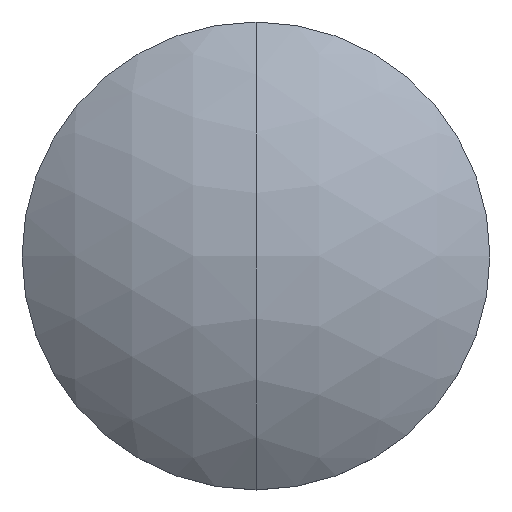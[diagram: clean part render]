
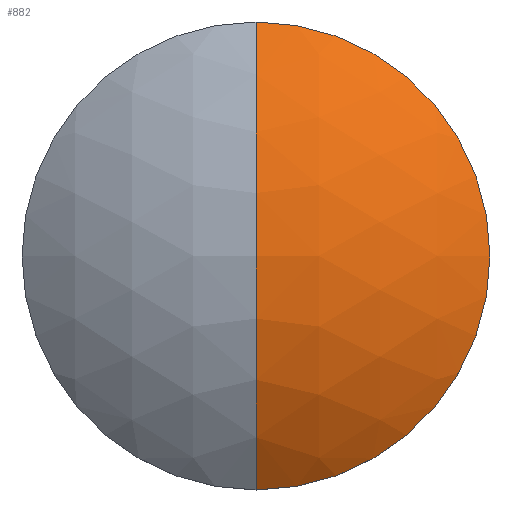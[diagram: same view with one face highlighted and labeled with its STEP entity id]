
A CAD part, top view. The second image highlights one B-rep face of the part: STEP entity #882.
In plain terms, the highlighted spherical face has radius 13.328 mm.
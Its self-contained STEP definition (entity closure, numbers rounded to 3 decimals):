
#69 = VERTEX_POINT ( 'NONE', #403 ) ;
#106 = VERTEX_POINT ( 'NONE', #483 ) ;
#119 = CIRCLE ( 'NONE', #380, 8.275 ) ;
#193 = ORIENTED_EDGE ( 'NONE', *, *, #402, .F. ) ;
#243 = DIRECTION ( 'NONE',  ( 0., 0., 1. ) ) ;
#249 = CARTESIAN_POINT ( 'NONE',  ( 0., 0., -9.448 ) ) ;
#253 = FACE_OUTER_BOUND ( 'NONE', #732, .T. ) ;
#263 = EDGE_CURVE ( 'NONE', #106, #69, #646, .T. ) ;
#380 = AXIS2_PLACEMENT_3D ( 'NONE', #746, #1041, #1103 ) ;
#381 = AXIS2_PLACEMENT_3D ( 'NONE', #969, #518, #792 ) ;
#402 = EDGE_CURVE ( 'NONE', #69, #619, #119, .T. ) ;
#403 = CARTESIAN_POINT ( 'NONE',  ( 0., 8.275, 1. ) ) ;
#483 = CARTESIAN_POINT ( 'NONE',  ( 0., 0., 3.88 ) ) ;
#507 = SPHERICAL_SURFACE ( 'NONE', #381, 13.328 ) ;
#515 = AXIS2_PLACEMENT_3D ( 'NONE', #780, #1135, #243 ) ;
#518 = DIRECTION ( 'NONE',  ( 1., 0., 0. ) ) ;
#565 = AXIS2_PLACEMENT_3D ( 'NONE', #249, #607, #1066 ) ;
#594 = CARTESIAN_POINT ( 'NONE',  ( 0., -8.275, 1. ) ) ;
#607 = DIRECTION ( 'NONE',  ( 1., 0., 0. ) ) ;
#619 = VERTEX_POINT ( 'NONE', #594 ) ;
#646 = CIRCLE ( 'NONE', #515, 13.328 ) ;
#692 = ORIENTED_EDGE ( 'NONE', *, *, #976, .T. ) ;
#732 = EDGE_LOOP ( 'NONE', ( #1046, #692, #193 ) ) ;
#746 = CARTESIAN_POINT ( 'NONE',  ( 0., 0., 1. ) ) ;
#780 = CARTESIAN_POINT ( 'NONE',  ( 0., 0., -9.448 ) ) ;
#792 = DIRECTION ( 'NONE',  ( 0., 1., 0. ) ) ;
#882 = ADVANCED_FACE ( 'NONE', ( #253 ), #507, .T. ) ;
#969 = CARTESIAN_POINT ( 'NONE',  ( 0., 0., -9.448 ) ) ;
#976 = EDGE_CURVE ( 'NONE', #106, #619, #1039, .T. ) ;
#1039 = CIRCLE ( 'NONE', #565, 13.328 ) ;
#1041 = DIRECTION ( 'NONE',  ( 0., 0., -1. ) ) ;
#1046 = ORIENTED_EDGE ( 'NONE', *, *, #263, .F. ) ;
#1066 = DIRECTION ( 'NONE',  ( 0., 1., 0. ) ) ;
#1103 = DIRECTION ( 'NONE',  ( 0., 1., 0. ) ) ;
#1135 = DIRECTION ( 'NONE',  ( -1., 0., 0. ) ) ;
